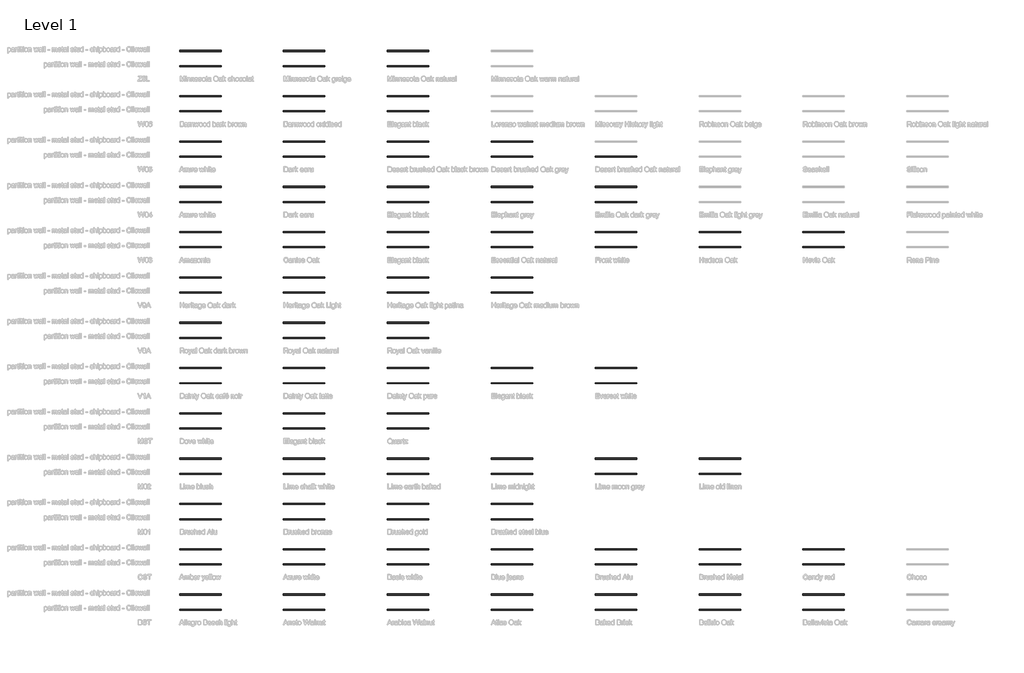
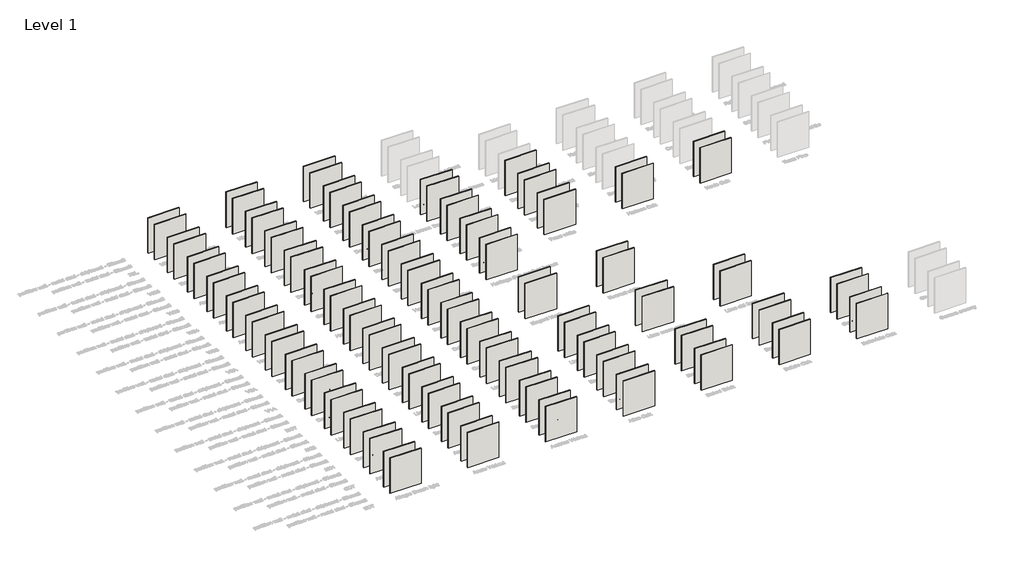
# One storey, part 1 of 110: 123 walls.
"""IFC4 building model written with IfcOpenShell, lengths in millimetres."""

from ifc_helpers import new_model, si_unit, origin, origin_with_axes, place, context, project, spatial, polyline, outline, extrude, element, save

model = new_model("IFC4")

# Units and contexts
model_context = context("Model", 3, world=origin())
ifc_project = project(units=[si_unit("LENGTHUNIT", "METRE", prefix="MILLI")], contexts=[model_context])

# Site, building, storey
site = spatial("IfcSite", under=ifc_project)
building = spatial("IfcBuilding", under=site)
storey = spatial("IfcBuildingStorey", under=building, Name="Level 1", Elevation=0.0)

# Walls
placement = place(None, origin())
element("IfcWall", 1, ObjectType="BERSfr_22_WA_parois de séparation - goujons métalliques - Clicwall BST Allegro Beech light 2785x600x10 mm_Unilin", at=placement, inside=storey, context=model_context, shape_type="SweptSolid", body=[
    extrude(outline(polyline([(14020.8, 1179.2), (10668.0, 1179.2), (10668.0, 1259.2), (14020.8, 1259.2), (14020.8, 1179.2)])), origin_with_axes(), (0.0, 0.0, 1.0), 4000.0),
])
element("IfcWall", 2, ObjectType="BERSfr_22_WA_parois de séparation - goujons métalliques - panneau de particules - Clicwall BST Allegro Beech light 2785x600x10 mm_Unilin", at=placement, inside=storey, context=model_context, shape_type="SweptSolid", body=[
    extrude(outline(polyline([(14020.8, 2392.4), (10668.0, 2392.4), (10668.0, 2484.4), (14020.8, 2484.4), (14020.8, 2392.4)])), origin_with_axes(), (0.0, 0.0, 1.0), 4000.0),
])
element("IfcWall", 3, ObjectType="BERSfr_22_WA_parois de séparation - goujons métalliques - Clicwall BST Aneto Walnut 2785x600x10 mm_Unilin", at=placement, inside=storey, context=model_context, shape_type="SweptSolid", body=[
    extrude(outline(polyline([(22402.8, 1179.2), (19050.0, 1179.2), (19050.0, 1259.2), (22402.8, 1259.2), (22402.8, 1179.2)])), origin_with_axes(), (0.0, 0.0, 1.0), 4000.0),
])
element("IfcWall", 4, ObjectType="BERSfr_22_WA_parois de séparation - goujons métalliques - panneau de particules - Clicwall BST Aneto Walnut 2785x600x10 mm_Unilin", at=placement, inside=storey, context=model_context, shape_type="SweptSolid", body=[
    extrude(outline(polyline([(22402.8, 2392.4), (19050.0, 2392.4), (19050.0, 2484.4), (22402.8, 2484.4), (22402.8, 2392.4)])), origin_with_axes(), (0.0, 0.0, 1.0), 4000.0),
])
element("IfcWall", 5, ObjectType="BERSfr_22_WA_parois de séparation - goujons métalliques - Clicwall BST Arabica Walnut 2785x600x10 mm_Unilin", at=placement, inside=storey, context=model_context, shape_type="SweptSolid", body=[
    extrude(outline(polyline([(30784.8, 1179.2), (27432.0, 1179.2), (27432.0, 1259.2), (30784.8, 1259.2), (30784.8, 1179.2)])), origin_with_axes(), (0.0, 0.0, 1.0), 4000.0),
])
element("IfcWall", 6, ObjectType="BERSfr_22_WA_parois de séparation - goujons métalliques - panneau de particules - Clicwall BST Arabica Walnut 2785x600x10 mm_Unilin", at=placement, inside=storey, context=model_context, shape_type="SweptSolid", body=[
    extrude(outline(polyline([(30784.8, 2392.4), (27432.0, 2392.4), (27432.0, 2484.4), (30784.8, 2484.4), (30784.8, 2392.4)])), origin_with_axes(), (0.0, 0.0, 1.0), 4000.0),
])
element("IfcWall", 7, ObjectType="BERSfr_22_WA_parois de séparation - goujons métalliques - Clicwall BST Atlas Oak  2785x600x10 mm_Unilin", at=placement, inside=storey, context=model_context, shape_type="SweptSolid", body=[
    extrude(outline(polyline([(39166.8, 1179.2), (35814.0, 1179.2), (35814.0, 1259.2), (39166.8, 1259.2), (39166.8, 1179.2)])), origin_with_axes(), (0.0, 0.0, 1.0), 4000.0),
])
element("IfcWall", 8, ObjectType="BERSfr_22_WA_parois de séparation - goujons métalliques - panneau de particules - Clicwall BST Atlas Oak  2785x600x10 mm_Unilin", at=placement, inside=storey, context=model_context, shape_type="SweptSolid", body=[
    extrude(outline(polyline([(39166.8, 2392.4), (35814.0, 2392.4), (35814.0, 2484.4), (39166.8, 2484.4), (39166.8, 2392.4)])), origin_with_axes(), (0.0, 0.0, 1.0), 4000.0),
])
element("IfcWall", 9, ObjectType="BERSfr_22_WA_parois de séparation - goujons métalliques - Clicwall BST Baked Brick 2785x600x10 mm_Unilin", at=placement, inside=storey, context=model_context, shape_type="SweptSolid", body=[
    extrude(outline(polyline([(47548.8, 1179.2), (44196.0, 1179.2), (44196.0, 1259.2), (47548.8, 1259.2), (47548.8, 1179.2)])), origin_with_axes(), (0.0, 0.0, 1.0), 4000.0),
])
element("IfcWall", 10, ObjectType="BERSfr_22_WA_parois de séparation - goujons métalliques - panneau de particules - Clicwall BST Baked Brick 2785x600x10 mm_Unilin", at=placement, inside=storey, context=model_context, shape_type="SweptSolid", body=[
    extrude(outline(polyline([(47548.8, 2392.4), (44196.0, 2392.4), (44196.0, 2484.4), (47548.8, 2484.4), (47548.8, 2392.4)])), origin_with_axes(), (0.0, 0.0, 1.0), 4000.0),
])
element("IfcWall", 11, ObjectType="BERSfr_22_WA_parois de séparation - goujons métalliques - Clicwall BST Belisio Oak 2785x600x10 mm_Unilin", at=placement, inside=storey, context=model_context, shape_type="SweptSolid", body=[
    extrude(outline(polyline([(55930.8, 1179.2), (52578.0, 1179.2), (52578.0, 1259.2), (55930.8, 1259.2), (55930.8, 1179.2)])), origin_with_axes(), (0.0, 0.0, 1.0), 4000.0),
])
element("IfcWall", 12, ObjectType="BERSfr_22_WA_parois de séparation - goujons métalliques - panneau de particules - Clicwall BST Belisio Oak 2785x600x10 mm_Unilin", at=placement, inside=storey, context=model_context, shape_type="SweptSolid", body=[
    extrude(outline(polyline([(55930.8, 2392.4), (52578.0, 2392.4), (52578.0, 2484.4), (55930.8, 2484.4), (55930.8, 2392.4)])), origin_with_axes(), (0.0, 0.0, 1.0), 4000.0),
])
element("IfcWall", 13, ObjectType="BERSfr_22_WA_parois de séparation - goujons métalliques - Clicwall BST Bellavista Oak 2785x600x10 mm_Unilin", at=placement, inside=storey, context=model_context, shape_type="SweptSolid", body=[
    extrude(outline(polyline([(64312.8, 1179.2), (60960.0, 1179.2), (60960.0, 1259.2), (64312.8, 1259.2), (64312.8, 1179.2)])), origin_with_axes(), (0.0, 0.0, 1.0), 4000.0),
])
element("IfcWall", 14, ObjectType="BERSfr_22_WA_parois de séparation - goujons métalliques - panneau de particules - Clicwall BST Bellavista Oak 2785x600x10 mm_Unilin", at=placement, inside=storey, context=model_context, shape_type="SweptSolid", body=[
    extrude(outline(polyline([(64312.8, 2392.4), (60960.0, 2392.4), (60960.0, 2484.4), (64312.8, 2484.4), (64312.8, 2392.4)])), origin_with_axes(), (0.0, 0.0, 1.0), 4000.0),
])
element("IfcWall", 15, ObjectType="BERSfr_22_WA_parois de séparation - goujons métalliques - Clicwall CST Amber yellow 2785x600x10 mm_Unilin", at=placement, inside=storey, context=model_context, shape_type="SweptSolid", body=[
    extrude(outline(polyline([(14020.8, 4836.8), (10668.0, 4836.8), (10668.0, 4916.8), (14020.8, 4916.8), (14020.8, 4836.8)])), origin_with_axes(), (0.0, 0.0, 1.0), 4000.0),
])
element("IfcWall", 16, ObjectType="BERSfr_22_WA_parois de séparation - goujons métalliques - panneau de particules - Clicwall CST Amber yellow 2785x600x10 mm_Unilin", at=placement, inside=storey, context=model_context, shape_type="SweptSolid", body=[
    extrude(outline(polyline([(14020.8, 6050.0), (10668.0, 6050.0), (10668.0, 6142.0), (14020.8, 6142.0), (14020.8, 6050.0)])), origin_with_axes(), (0.0, 0.0, 1.0), 4000.0),
])
element("IfcWall", 17, ObjectType="BERSfr_22_WA_parois de séparation - goujons métalliques - Clicwall CST Azure white 2785x600x10 mm_Unilin", at=placement, inside=storey, context=model_context, shape_type="SweptSolid", body=[
    extrude(outline(polyline([(22402.8, 4836.8), (19050.0, 4836.8), (19050.0, 4916.8), (22402.8, 4916.8), (22402.8, 4836.8)])), origin_with_axes(), (0.0, 0.0, 1.0), 4000.0),
])
element("IfcWall", 18, ObjectType="BERSfr_22_WA_parois de séparation - goujons métalliques - panneau de particules - Clicwall CST Azure white 2785x600x10 mm_Unilin", at=placement, inside=storey, context=model_context, shape_type="SweptSolid", body=[
    extrude(outline(polyline([(22402.8, 6050.0), (19050.0, 6050.0), (19050.0, 6142.0), (22402.8, 6142.0), (22402.8, 6050.0)])), origin_with_axes(), (0.0, 0.0, 1.0), 4000.0),
])
element("IfcWall", 19, ObjectType="BERSfr_22_WA_parois de séparation - goujons métalliques - Clicwall CST Basic white 2785x600x10 mm_Unilin", at=placement, inside=storey, context=model_context, shape_type="SweptSolid", body=[
    extrude(outline(polyline([(30784.8, 4836.8), (27432.0, 4836.8), (27432.0, 4916.8), (30784.8, 4916.8), (30784.8, 4836.8)])), origin_with_axes(), (0.0, 0.0, 1.0), 4000.0),
])
element("IfcWall", 20, ObjectType="BERSfr_22_WA_parois de séparation - goujons métalliques - panneau de particules - Clicwall CST Basic white 2785x600x10 mm_Unilin", at=placement, inside=storey, context=model_context, shape_type="SweptSolid", body=[
    extrude(outline(polyline([(30784.8, 6050.0), (27432.0, 6050.0), (27432.0, 6142.0), (30784.8, 6142.0), (30784.8, 6050.0)])), origin_with_axes(), (0.0, 0.0, 1.0), 4000.0),
])
element("IfcWall", 21, ObjectType="BERSfr_22_WA_parois de séparation - goujons métalliques - Clicwall CST Blue jeans 2785x600x10 mm_Unilin", at=placement, inside=storey, context=model_context, shape_type="SweptSolid", body=[
    extrude(outline(polyline([(39166.8, 4836.8), (35814.0, 4836.8), (35814.0, 4916.8), (39166.8, 4916.8), (39166.8, 4836.8)])), origin_with_axes(), (0.0, 0.0, 1.0), 4000.0),
])
element("IfcWall", 22, ObjectType="BERSfr_22_WA_parois de séparation - goujons métalliques - panneau de particules - Clicwall CST Blue jeans 2785x600x10 mm_Unilin", at=placement, inside=storey, context=model_context, shape_type="SweptSolid", body=[
    extrude(outline(polyline([(39166.8, 6050.0), (35814.0, 6050.0), (35814.0, 6142.0), (39166.8, 6142.0), (39166.8, 6050.0)])), origin_with_axes(), (0.0, 0.0, 1.0), 4000.0),
])
element("IfcWall", 23, ObjectType="BERSfr_22_WA_parois de séparation - goujons métalliques - Clicwall CST Brushed Alu 2785x600x10 mm_Unilin", at=placement, inside=storey, context=model_context, shape_type="SweptSolid", body=[
    extrude(outline(polyline([(47548.8, 4836.8), (44196.0, 4836.8), (44196.0, 4916.8), (47548.8, 4916.8), (47548.8, 4836.8)])), origin_with_axes(), (0.0, 0.0, 1.0), 4000.0),
])
element("IfcWall", 24, ObjectType="BERSfr_22_WA_parois de séparation - goujons métalliques - panneau de particules - Clicwall CST Brushed Alu 2785x600x10 mm_Unilin", at=placement, inside=storey, context=model_context, shape_type="SweptSolid", body=[
    extrude(outline(polyline([(47548.8, 6050.0), (44196.0, 6050.0), (44196.0, 6142.0), (47548.8, 6142.0), (47548.8, 6050.0)])), origin_with_axes(), (0.0, 0.0, 1.0), 4000.0),
])
element("IfcWall", 25, ObjectType="BERSfr_22_WA_parois de séparation - goujons métalliques - Clicwall CST Brushed Metal 2785x600x10 mm_Unilin", at=placement, inside=storey, context=model_context, shape_type="SweptSolid", body=[
    extrude(outline(polyline([(55930.8, 4836.8), (52578.0, 4836.8), (52578.0, 4916.8), (55930.8, 4916.8), (55930.8, 4836.8)])), origin_with_axes(), (0.0, 0.0, 1.0), 4000.0),
])
element("IfcWall", 26, ObjectType="BERSfr_22_WA_parois de séparation - goujons métalliques - panneau de particules - Clicwall CST Brushed Metal 2785x600x10 mm_Unilin", at=placement, inside=storey, context=model_context, shape_type="SweptSolid", body=[
    extrude(outline(polyline([(55930.8, 6050.0), (52578.0, 6050.0), (52578.0, 6142.0), (55930.8, 6142.0), (55930.8, 6050.0)])), origin_with_axes(), (0.0, 0.0, 1.0), 4000.0),
])
element("IfcWall", 27, ObjectType="BERSfr_22_WA_parois de séparation - goujons métalliques - Clicwall CST Candy red 2785x600x10 mm_Unilin", at=placement, inside=storey, context=model_context, shape_type="SweptSolid", body=[
    extrude(outline(polyline([(64312.8, 4836.8), (60960.0, 4836.8), (60960.0, 4916.8), (64312.8, 4916.8), (64312.8, 4836.8)])), origin_with_axes(), (0.0, 0.0, 1.0), 4000.0),
])
element("IfcWall", 28, ObjectType="BERSfr_22_WA_parois de séparation - goujons métalliques - panneau de particules - Clicwall CST Candy red 2785x600x10 mm_Unilin", at=placement, inside=storey, context=model_context, shape_type="SweptSolid", body=[
    extrude(outline(polyline([(64312.8, 6050.0), (60960.0, 6050.0), (60960.0, 6142.0), (64312.8, 6142.0), (64312.8, 6050.0)])), origin_with_axes(), (0.0, 0.0, 1.0), 4000.0),
])
element("IfcWall", 29, ObjectType="BERSfr_22_WA_parois de séparation - goujons métalliques - Clicwall M01 Brushed Alu 2785x600x10 mm_Unilin", at=placement, inside=storey, context=model_context, shape_type="SweptSolid", body=[
    extrude(outline(polyline([(14020.8, 8494.4), (10668.0, 8494.4), (10668.0, 8574.4), (14020.8, 8574.4), (14020.8, 8494.4)])), origin_with_axes(), (0.0, 0.0, 1.0), 4000.0),
])
element("IfcWall", 30, ObjectType="BERSfr_22_WA_parois de séparation - goujons métalliques - panneau de particules - Clicwall M01 Brushed Alu 2785x600x10 mm_Unilin", at=placement, inside=storey, context=model_context, shape_type="SweptSolid", body=[
    extrude(outline(polyline([(14020.8, 9707.6), (10668.0, 9707.6), (10668.0, 9799.6), (14020.8, 9799.6), (14020.8, 9707.6)])), origin_with_axes(), (0.0, 0.0, 1.0), 4000.0),
])
element("IfcWall", 31, ObjectType="BERSfr_22_WA_parois de séparation - goujons métalliques - Clicwall M01 Brushed bronze 2785x600x10 mm_Unilin", at=placement, inside=storey, context=model_context, shape_type="SweptSolid", body=[
    extrude(outline(polyline([(22402.8, 8494.4), (19050.0, 8494.4), (19050.0, 8574.4), (22402.8, 8574.4), (22402.8, 8494.4)])), origin_with_axes(), (0.0, 0.0, 1.0), 4000.0),
])
element("IfcWall", 32, ObjectType="BERSfr_22_WA_parois de séparation - goujons métalliques - panneau de particules - Clicwall M01 Brushed bronze 2785x600x10 mm_Unilin", at=placement, inside=storey, context=model_context, shape_type="SweptSolid", body=[
    extrude(outline(polyline([(22402.8, 9707.6), (19050.0, 9707.6), (19050.0, 9799.6), (22402.8, 9799.6), (22402.8, 9707.6)])), origin_with_axes(), (0.0, 0.0, 1.0), 4000.0),
])
element("IfcWall", 33, ObjectType="BERSfr_22_WA_parois de séparation - goujons métalliques - Clicwall M01 Brushed gold 2785x600x10 mm_Unilin", at=placement, inside=storey, context=model_context, shape_type="SweptSolid", body=[
    extrude(outline(polyline([(30784.8, 8494.4), (27432.0, 8494.4), (27432.0, 8574.4), (30784.8, 8574.4), (30784.8, 8494.4)])), origin_with_axes(), (0.0, 0.0, 1.0), 4000.0),
])
element("IfcWall", 34, ObjectType="BERSfr_22_WA_parois de séparation - goujons métalliques - panneau de particules - Clicwall M01 Brushed gold 2785x600x10 mm_Unilin", at=placement, inside=storey, context=model_context, shape_type="SweptSolid", body=[
    extrude(outline(polyline([(30784.8, 9707.6), (27432.0, 9707.6), (27432.0, 9799.6), (30784.8, 9799.6), (30784.8, 9707.6)])), origin_with_axes(), (0.0, 0.0, 1.0), 4000.0),
])
element("IfcWall", 35, ObjectType="BERSfr_22_WA_parois de séparation - goujons métalliques - Clicwall M01 Brushed steel blue  2785x600x10 mm_Unilin", at=placement, inside=storey, context=model_context, shape_type="SweptSolid", body=[
    extrude(outline(polyline([(39166.8, 8494.4), (35814.0, 8494.4), (35814.0, 8574.4), (39166.8, 8574.4), (39166.8, 8494.4)])), origin_with_axes(), (0.0, 0.0, 1.0), 4000.0),
])
element("IfcWall", 36, ObjectType="BERSfr_22_WA_parois de séparation - goujons métalliques - panneau de particules - Clicwall M01 Brushed steel blue  2785x600x10 mm_Unilin", at=placement, inside=storey, context=model_context, shape_type="SweptSolid", body=[
    extrude(outline(polyline([(39166.8, 9707.6), (35814.0, 9707.6), (35814.0, 9799.6), (39166.8, 9799.6), (39166.8, 9707.6)])), origin_with_axes(), (0.0, 0.0, 1.0), 4000.0),
])
element("IfcWall", 37, ObjectType="BERSfr_22_WA_parois de séparation - goujons métalliques - Clicwall M02 Lime blush  2785x600x10 mm_Unilin", at=placement, inside=storey, context=model_context, shape_type="SweptSolid", body=[
    extrude(outline(polyline([(14020.8, 12152.0), (10668.0, 12152.0), (10668.0, 12232.0), (14020.8, 12232.0), (14020.8, 12152.0)])), origin_with_axes(), (0.0, 0.0, 1.0), 4000.0),
])
element("IfcWall", 38, ObjectType="BERSfr_22_WA_parois de séparation - goujons métalliques - panneau de particules - Clicwall M02 Lime blush  2785x600x10 mm_Unilin", at=placement, inside=storey, context=model_context, shape_type="SweptSolid", body=[
    extrude(outline(polyline([(14020.8, 13365.2), (10668.0, 13365.2), (10668.0, 13457.2), (14020.8, 13457.2), (14020.8, 13365.2)])), origin_with_axes(), (0.0, 0.0, 1.0), 4000.0),
])
element("IfcWall", 39, ObjectType="BERSfr_22_WA_parois de séparation - goujons métalliques - Clicwall M02 Lime chalk white  2785x600x10 mm_Unilin", at=placement, inside=storey, context=model_context, shape_type="SweptSolid", body=[
    extrude(outline(polyline([(22402.8, 12152.0), (19050.0, 12152.0), (19050.0, 12232.0), (22402.8, 12232.0), (22402.8, 12152.0)])), origin_with_axes(), (0.0, 0.0, 1.0), 4000.0),
])
element("IfcWall", 40, ObjectType="BERSfr_22_WA_parois de séparation - goujons métalliques - panneau de particules - Clicwall M02 Lime chalk white  2785x600x10 mm_Unilin", at=placement, inside=storey, context=model_context, shape_type="SweptSolid", body=[
    extrude(outline(polyline([(22402.8, 13365.2), (19050.0, 13365.2), (19050.0, 13457.2), (22402.8, 13457.2), (22402.8, 13365.2)])), origin_with_axes(), (0.0, 0.0, 1.0), 4000.0),
])
element("IfcWall", 41, ObjectType="BERSfr_22_WA_parois de séparation - goujons métalliques - Clicwall M02 Lime earth baked  2785x600x10 mm_Unilin", at=placement, inside=storey, context=model_context, shape_type="SweptSolid", body=[
    extrude(outline(polyline([(30784.8, 12152.0), (27432.0, 12152.0), (27432.0, 12232.0), (30784.8, 12232.0), (30784.8, 12152.0)])), origin_with_axes(), (0.0, 0.0, 1.0), 4000.0),
])
element("IfcWall", 42, ObjectType="BERSfr_22_WA_parois de séparation - goujons métalliques - panneau de particules - Clicwall M02 Lime earth baked  2785x600x10 mm_Unilin", at=placement, inside=storey, context=model_context, shape_type="SweptSolid", body=[
    extrude(outline(polyline([(30784.8, 13365.2), (27432.0, 13365.2), (27432.0, 13457.2), (30784.8, 13457.2), (30784.8, 13365.2)])), origin_with_axes(), (0.0, 0.0, 1.0), 4000.0),
])
element("IfcWall", 43, ObjectType="BERSfr_22_WA_parois de séparation - goujons métalliques - Clicwall M02 Lime midnight  2785x600x10 mm_Unilin", at=placement, inside=storey, context=model_context, shape_type="SweptSolid", body=[
    extrude(outline(polyline([(39166.8, 12152.0), (35814.0, 12152.0), (35814.0, 12232.0), (39166.8, 12232.0), (39166.8, 12152.0)])), origin_with_axes(), (0.0, 0.0, 1.0), 4000.0),
])
element("IfcWall", 44, ObjectType="BERSfr_22_WA_parois de séparation - goujons métalliques - panneau de particules - Clicwall M02 Lime midnight  2785x600x10 mm_Unilin", at=placement, inside=storey, context=model_context, shape_type="SweptSolid", body=[
    extrude(outline(polyline([(39166.8, 13365.2), (35814.0, 13365.2), (35814.0, 13457.2), (39166.8, 13457.2), (39166.8, 13365.2)])), origin_with_axes(), (0.0, 0.0, 1.0), 4000.0),
])
element("IfcWall", 45, ObjectType="BERSfr_22_WA_parois de séparation - goujons métalliques - Clicwall M02 Lime moon grey  2785x600x10 mm_Unilin", at=placement, inside=storey, context=model_context, shape_type="SweptSolid", body=[
    extrude(outline(polyline([(47548.8, 12152.0), (44196.0, 12152.0), (44196.0, 12232.0), (47548.8, 12232.0), (47548.8, 12152.0)])), origin_with_axes(), (0.0, 0.0, 1.0), 4000.0),
])
element("IfcWall", 46, ObjectType="BERSfr_22_WA_parois de séparation - goujons métalliques - panneau de particules - Clicwall M02 Lime moon grey  2785x600x10 mm_Unilin", at=placement, inside=storey, context=model_context, shape_type="SweptSolid", body=[
    extrude(outline(polyline([(47548.8, 13365.2), (44196.0, 13365.2), (44196.0, 13457.2), (47548.8, 13457.2), (47548.8, 13365.2)])), origin_with_axes(), (0.0, 0.0, 1.0), 4000.0),
])
element("IfcWall", 47, ObjectType="BERSfr_22_WA_parois de séparation - goujons métalliques - Clicwall M02 Lime old linen  2785x600x10 mm_Unilin", at=placement, inside=storey, context=model_context, shape_type="SweptSolid", body=[
    extrude(outline(polyline([(55930.8, 12152.0), (52578.0, 12152.0), (52578.0, 12232.0), (55930.8, 12232.0), (55930.8, 12152.0)])), origin_with_axes(), (0.0, 0.0, 1.0), 4000.0),
])
element("IfcWall", 48, ObjectType="BERSfr_22_WA_parois de séparation - goujons métalliques - panneau de particules - Clicwall M02 Lime old linen  2785x600x10 mm_Unilin", at=placement, inside=storey, context=model_context, shape_type="SweptSolid", body=[
    extrude(outline(polyline([(55930.8, 13365.2), (52578.0, 13365.2), (52578.0, 13457.2), (55930.8, 13457.2), (55930.8, 13365.2)])), origin_with_axes(), (0.0, 0.0, 1.0), 4000.0),
])
element("IfcWall", 49, ObjectType="BERSfr_22_WA_parois de séparation - goujons métalliques - Clicwall MST Dove white  2785x600x10 mm_Unilin", at=placement, inside=storey, context=model_context, shape_type="SweptSolid", body=[
    extrude(outline(polyline([(14020.8, 15809.6), (10668.0, 15809.6), (10668.0, 15889.6), (14020.8, 15889.6), (14020.8, 15809.6)])), origin_with_axes(), (0.0, 0.0, 1.0), 4000.0),
])
element("IfcWall", 50, ObjectType="BERSfr_22_WA_parois de séparation - goujons métalliques - panneau de particules - Clicwall MST Dove white  2785x600x10 mm_Unilin", at=placement, inside=storey, context=model_context, shape_type="SweptSolid", body=[
    extrude(outline(polyline([(14020.8, 17022.8), (10668.0, 17022.8), (10668.0, 17114.8), (14020.8, 17114.8), (14020.8, 17022.8)])), origin_with_axes(), (0.0, 0.0, 1.0), 4000.0),
])
element("IfcWall", 51, ObjectType="BERSfr_22_WA_parois de séparation - goujons métalliques - Clicwall MST Elegant black  2785x600x10 mm_Unilin", at=placement, inside=storey, context=model_context, shape_type="SweptSolid", body=[
    extrude(outline(polyline([(22402.8, 15809.6), (19050.0, 15809.6), (19050.0, 15889.6), (22402.8, 15889.6), (22402.8, 15809.6)])), origin_with_axes(), (0.0, 0.0, 1.0), 4000.0),
])
element("IfcWall", 52, ObjectType="BERSfr_22_WA_parois de séparation - goujons métalliques - panneau de particules - Clicwall MST Elegant black  2785x600x10 mm_Unilin", at=placement, inside=storey, context=model_context, shape_type="SweptSolid", body=[
    extrude(outline(polyline([(22402.8, 17022.8), (19050.0, 17022.8), (19050.0, 17114.8), (22402.8, 17114.8), (22402.8, 17022.8)])), origin_with_axes(), (0.0, 0.0, 1.0), 4000.0),
])
element("IfcWall", 53, ObjectType="BERSfr_22_WA_parois de séparation - goujons métalliques - Clicwall MST Quartz  2785x600x10 mm_Unilin", at=placement, inside=storey, context=model_context, shape_type="SweptSolid", body=[
    extrude(outline(polyline([(30784.8, 15809.6), (27432.0, 15809.6), (27432.0, 15889.6), (30784.8, 15889.6), (30784.8, 15809.6)])), origin_with_axes(), (0.0, 0.0, 1.0), 4000.0),
])
element("IfcWall", 54, ObjectType="BERSfr_22_WA_parois de séparation - goujons métalliques - panneau de particules - Clicwall MST Quartz  2785x600x10 mm_Unilin", at=placement, inside=storey, context=model_context, shape_type="SweptSolid", body=[
    extrude(outline(polyline([(30784.8, 17022.8), (27432.0, 17022.8), (27432.0, 17114.8), (30784.8, 17114.8), (30784.8, 17022.8)])), origin_with_axes(), (0.0, 0.0, 1.0), 4000.0),
])
element("IfcWall", 55, ObjectType="BERSfr_22_WA_parois de séparation - goujons métalliques - Clicwall V1A Dainty Oak café noir 2785x600x10 mm_Unilin", at=placement, inside=storey, context=model_context, shape_type="SweptSolid", body=[
    extrude(outline(polyline([(14020.8, 19467.2), (10668.0, 19467.2), (10668.0, 19547.2), (14020.8, 19547.2), (14020.8, 19467.2)])), origin_with_axes(), (0.0, 0.0, 1.0), 4000.0),
])
element("IfcWall", 56, ObjectType="BERSfr_22_WA_parois de séparation - goujons métalliques - panneau de particules - Clicwall V1A Dainty Oak café noir 2785x600x10 mm_Unilin", at=placement, inside=storey, context=model_context, shape_type="SweptSolid", body=[
    extrude(outline(polyline([(14020.8, 20680.4), (10668.0, 20680.4), (10668.0, 20772.4), (14020.8, 20772.4), (14020.8, 20680.4)])), origin_with_axes(), (0.0, 0.0, 1.0), 4000.0),
])
element("IfcWall", 57, ObjectType="BERSfr_22_WA_parois de séparation - goujons métalliques - Clicwall V1A Dainty Oak latte 2785x600x10 mm_Unilin", at=placement, inside=storey, context=model_context, shape_type="SweptSolid", body=[
    extrude(outline(polyline([(22402.8, 19467.2), (19050.0, 19467.2), (19050.0, 19547.2), (22402.8, 19547.2), (22402.8, 19467.2)])), origin_with_axes(), (0.0, 0.0, 1.0), 4000.0),
])
element("IfcWall", 58, ObjectType="BERSfr_22_WA_parois de séparation - goujons métalliques - panneau de particules - Clicwall V1A Dainty Oak latte 2785x600x10 mm_Unilin", at=placement, inside=storey, context=model_context, shape_type="SweptSolid", body=[
    extrude(outline(polyline([(22402.8, 20680.4), (19050.0, 20680.4), (19050.0, 20772.4), (22402.8, 20772.4), (22402.8, 20680.4)])), origin_with_axes(), (0.0, 0.0, 1.0), 4000.0),
])
element("IfcWall", 59, ObjectType="BERSfr_22_WA_parois de séparation - goujons métalliques - Clicwall V1A Dainty Oak pure 2785x600x10 mm_Unilin", at=placement, inside=storey, context=model_context, shape_type="SweptSolid", body=[
    extrude(outline(polyline([(30784.8, 19467.2), (27432.0, 19467.2), (27432.0, 19547.2), (30784.8, 19547.2), (30784.8, 19467.2)])), origin_with_axes(), (0.0, 0.0, 1.0), 4000.0),
])
element("IfcWall", 60, ObjectType="BERSfr_22_WA_parois de séparation - goujons métalliques - panneau de particules - Clicwall V1A Dainty Oak pure 2785x600x10 mm_Unilin", at=placement, inside=storey, context=model_context, shape_type="SweptSolid", body=[
    extrude(outline(polyline([(30784.8, 20680.4), (27432.0, 20680.4), (27432.0, 20772.4), (30784.8, 20772.4), (30784.8, 20680.4)])), origin_with_axes(), (0.0, 0.0, 1.0), 4000.0),
])
element("IfcWall", 61, ObjectType="BERSfr_22_WA_parois de séparation - goujons métalliques - Clicwall V1A Elegant black  2785x600x10 mm_Unilin", at=placement, inside=storey, context=model_context, shape_type="SweptSolid", body=[
    extrude(outline(polyline([(39166.8, 19467.2), (35814.0, 19467.2), (35814.0, 19547.2), (39166.8, 19547.2), (39166.8, 19467.2)])), origin_with_axes(), (0.0, 0.0, 1.0), 4000.0),
])
element("IfcWall", 62, ObjectType="BERSfr_22_WA_parois de séparation - goujons métalliques - panneau de particules - Clicwall V1A Elegant black  2785x600x10 mm_Unilin", at=placement, inside=storey, context=model_context, shape_type="SweptSolid", body=[
    extrude(outline(polyline([(39166.8, 20680.4), (35814.0, 20680.4), (35814.0, 20772.4), (39166.8, 20772.4), (39166.8, 20680.4)])), origin_with_axes(), (0.0, 0.0, 1.0), 4000.0),
])
element("IfcWall", 63, ObjectType="BERSfr_22_WA_parois de séparation - goujons métalliques - Clicwall V1A Everest white  2785x600x10 mm_Unilin", at=placement, inside=storey, context=model_context, shape_type="SweptSolid", body=[
    extrude(outline(polyline([(47548.8, 19467.2), (44196.0, 19467.2), (44196.0, 19547.2), (47548.8, 19547.2), (47548.8, 19467.2)])), origin_with_axes(), (0.0, 0.0, 1.0), 4000.0),
])
element("IfcWall", 64, ObjectType="BERSfr_22_WA_parois de séparation - goujons métalliques - panneau de particules - Clicwall V1A Everest white  2785x600x10 mm_Unilin", at=placement, inside=storey, context=model_context, shape_type="SweptSolid", body=[
    extrude(outline(polyline([(47548.8, 20680.4), (44196.0, 20680.4), (44196.0, 20772.4), (47548.8, 20772.4), (47548.8, 20680.4)])), origin_with_axes(), (0.0, 0.0, 1.0), 4000.0),
])
element("IfcWall", 65, ObjectType="BERSfr_22_WA_parois de séparation - goujons métalliques - Clicwall V8A Royal Oak dark brown 2785x600x10 mm_Unilin", at=placement, inside=storey, context=model_context, shape_type="SweptSolid", body=[
    extrude(outline(polyline([(14020.8, 23124.8), (10668.0, 23124.8), (10668.0, 23204.8), (14020.8, 23204.8), (14020.8, 23124.8)])), origin_with_axes(), (0.0, 0.0, 1.0), 4000.0),
])
element("IfcWall", 66, ObjectType="BERSfr_22_WA_parois de séparation - goujons métalliques - panneau de particules - Clicwall V8A Royal Oak dark brown 2785x600x10 mm_Unilin", at=placement, inside=storey, context=model_context, shape_type="SweptSolid", body=[
    extrude(outline(polyline([(14020.8, 24338.0), (10668.0, 24338.0), (10668.0, 24430.0), (14020.8, 24430.0), (14020.8, 24338.0)])), origin_with_axes(), (0.0, 0.0, 1.0), 4000.0),
])
element("IfcWall", 67, ObjectType="BERSfr_22_WA_parois de séparation - goujons métalliques - Clicwall V8A Royal Oak natural 2785x600x10 mm_Unilin", at=placement, inside=storey, context=model_context, shape_type="SweptSolid", body=[
    extrude(outline(polyline([(22402.8, 23124.8), (19050.0, 23124.8), (19050.0, 23204.8), (22402.8, 23204.8), (22402.8, 23124.8)])), origin_with_axes(), (0.0, 0.0, 1.0), 4000.0),
])
element("IfcWall", 68, ObjectType="BERSfr_22_WA_parois de séparation - goujons métalliques - panneau de particules - Clicwall V8A Royal Oak natural 2785x600x10 mm_Unilin", at=placement, inside=storey, context=model_context, shape_type="SweptSolid", body=[
    extrude(outline(polyline([(22402.8, 24338.0), (19050.0, 24338.0), (19050.0, 24430.0), (22402.8, 24430.0), (22402.8, 24338.0)])), origin_with_axes(), (0.0, 0.0, 1.0), 4000.0),
])
element("IfcWall", 69, ObjectType="BERSfr_22_WA_parois de séparation - goujons métalliques - Clicwall V8A Royal Oak vanille 2785x600x10 mm_Unilin", at=placement, inside=storey, context=model_context, shape_type="SweptSolid", body=[
    extrude(outline(polyline([(30784.8, 23124.8), (27432.0, 23124.8), (27432.0, 23204.8), (30784.8, 23204.8), (30784.8, 23124.8)])), origin_with_axes(), (0.0, 0.0, 1.0), 4000.0),
])
element("IfcWall", 70, ObjectType="BERSfr_22_WA_parois de séparation - goujons métalliques - panneau de particules - Clicwall V8A Royal Oak vanille 2785x600x10 mm_Unilin", at=placement, inside=storey, context=model_context, shape_type="SweptSolid", body=[
    extrude(outline(polyline([(30784.8, 24338.0), (27432.0, 24338.0), (27432.0, 24430.0), (30784.8, 24430.0), (30784.8, 24338.0)])), origin_with_axes(), (0.0, 0.0, 1.0), 4000.0),
])
element("IfcWall", 71, ObjectType="BERSfr_22_WA_parois de séparation - goujons métalliques - Clicwall V9A Heritage Oak dark 2785x600x10 mm_Unilin", at=placement, inside=storey, context=model_context, shape_type="SweptSolid", body=[
    extrude(outline(polyline([(14020.8, 26782.4), (10668.0, 26782.4), (10668.0, 26862.4), (14020.8, 26862.4), (14020.8, 26782.4)])), origin_with_axes(), (0.0, 0.0, 1.0), 4000.0),
])
element("IfcWall", 72, ObjectType="BERSfr_22_WA_parois de séparation - goujons métalliques - panneau de particules - Clicwall V9A Heritage Oak dark 2785x600x10 mm_Unilin", at=placement, inside=storey, context=model_context, shape_type="SweptSolid", body=[
    extrude(outline(polyline([(14020.8, 27995.6), (10668.0, 27995.6), (10668.0, 28087.6), (14020.8, 28087.6), (14020.8, 27995.6)])), origin_with_axes(), (0.0, 0.0, 1.0), 4000.0),
])
element("IfcWall", 73, ObjectType="BERSfr_22_WA_parois de séparation - goujons métalliques - Clicwall V9A Heritage Oak Light 2785x600x10 mm_Unilin", at=placement, inside=storey, context=model_context, shape_type="SweptSolid", body=[
    extrude(outline(polyline([(22402.8, 26782.4), (19050.0, 26782.4), (19050.0, 26862.4), (22402.8, 26862.4), (22402.8, 26782.4)])), origin_with_axes(), (0.0, 0.0, 1.0), 4000.0),
])
element("IfcWall", 74, ObjectType="BERSfr_22_WA_parois de séparation - goujons métalliques - panneau de particules - Clicwall V9A Heritage Oak Light 2785x600x10 mm_Unilin", at=placement, inside=storey, context=model_context, shape_type="SweptSolid", body=[
    extrude(outline(polyline([(22402.8, 27995.6), (19050.0, 27995.6), (19050.0, 28087.6), (22402.8, 28087.6), (22402.8, 27995.6)])), origin_with_axes(), (0.0, 0.0, 1.0), 4000.0),
])
element("IfcWall", 75, ObjectType="BERSfr_22_WA_parois de séparation - goujons métalliques - Clicwall V9A Heritage Oak light patina 2785x600x10 mm_Unilin", at=placement, inside=storey, context=model_context, shape_type="SweptSolid", body=[
    extrude(outline(polyline([(30784.8, 26782.4), (27432.0, 26782.4), (27432.0, 26862.4), (30784.8, 26862.4), (30784.8, 26782.4)])), origin_with_axes(), (0.0, 0.0, 1.0), 4000.0),
])
element("IfcWall", 76, ObjectType="BERSfr_22_WA_parois de séparation - goujons métalliques - panneau de particules - Clicwall V9A Heritage Oak light patina 2785x600x10 mm_Unilin", at=placement, inside=storey, context=model_context, shape_type="SweptSolid", body=[
    extrude(outline(polyline([(30784.8, 27995.6), (27432.0, 27995.6), (27432.0, 28087.6), (30784.8, 28087.6), (30784.8, 27995.6)])), origin_with_axes(), (0.0, 0.0, 1.0), 4000.0),
])
element("IfcWall", 77, ObjectType="BERSfr_22_WA_parois de séparation - goujons métalliques - Clicwall V9A Heritage Oak medium brown 2785x600x10 mm_Unilin", at=placement, inside=storey, context=model_context, shape_type="SweptSolid", body=[
    extrude(outline(polyline([(39166.8, 26782.4), (35814.0, 26782.4), (35814.0, 26862.4), (39166.8, 26862.4), (39166.8, 26782.4)])), origin_with_axes(), (0.0, 0.0, 1.0), 4000.0),
])
element("IfcWall", 78, ObjectType="BERSfr_22_WA_parois de séparation - goujons métalliques - panneau de particules - Clicwall V9A Heritage Oak medium brown 2785x600x10 mm_Unilin", at=placement, inside=storey, context=model_context, shape_type="SweptSolid", body=[
    extrude(outline(polyline([(39166.8, 27995.6), (35814.0, 27995.6), (35814.0, 28087.6), (39166.8, 28087.6), (39166.8, 27995.6)])), origin_with_axes(), (0.0, 0.0, 1.0), 4000.0),
])
element("IfcWall", 79, ObjectType="BERSfr_22_WA_parois de séparation - goujons métalliques - Clicwall W03 Amazonia 2785x600x10 mm_Unilin", at=placement, inside=storey, context=model_context, shape_type="SweptSolid", body=[
    extrude(outline(polyline([(14020.8, 30440.0), (10668.0, 30440.0), (10668.0, 30520.0), (14020.8, 30520.0), (14020.8, 30440.0)])), origin_with_axes(), (0.0, 0.0, 1.0), 4000.0),
])
element("IfcWall", 80, ObjectType="BERSfr_22_WA_parois de séparation - goujons métalliques - panneau de particules - Clicwall W03 Amazonia 2785x600x10 mm_Unilin", at=placement, inside=storey, context=model_context, shape_type="SweptSolid", body=[
    extrude(outline(polyline([(14020.8, 31653.2), (10668.0, 31653.2), (10668.0, 31745.2), (14020.8, 31745.2), (14020.8, 31653.2)])), origin_with_axes(), (0.0, 0.0, 1.0), 4000.0),
])
element("IfcWall", 81, ObjectType="BERSfr_22_WA_parois de séparation - goujons métalliques - Clicwall W03 Canice Oak 2785x600x10 mm_Unilin", at=placement, inside=storey, context=model_context, shape_type="SweptSolid", body=[
    extrude(outline(polyline([(22402.8, 30440.0), (19050.0, 30440.0), (19050.0, 30520.0), (22402.8, 30520.0), (22402.8, 30440.0)])), origin_with_axes(), (0.0, 0.0, 1.0), 4000.0),
])
element("IfcWall", 82, ObjectType="BERSfr_22_WA_parois de séparation - goujons métalliques - panneau de particules - Clicwall W03 Canice Oak 2785x600x10 mm_Unilin", at=placement, inside=storey, context=model_context, shape_type="SweptSolid", body=[
    extrude(outline(polyline([(22402.8, 31653.2), (19050.0, 31653.2), (19050.0, 31745.2), (22402.8, 31745.2), (22402.8, 31653.2)])), origin_with_axes(), (0.0, 0.0, 1.0), 4000.0),
])
element("IfcWall", 83, ObjectType="BERSfr_22_WA_parois de séparation - goujons métalliques - Clicwall W03 Elegant black 2785x600x10 mm_Unilin", at=placement, inside=storey, context=model_context, shape_type="SweptSolid", body=[
    extrude(outline(polyline([(30784.8, 30440.0), (27432.0, 30440.0), (27432.0, 30520.0), (30784.8, 30520.0), (30784.8, 30440.0)])), origin_with_axes(), (0.0, 0.0, 1.0), 4000.0),
])
element("IfcWall", 84, ObjectType="BERSfr_22_WA_parois de séparation - goujons métalliques - panneau de particules - Clicwall W03 Elegant black 2785x600x10 mm_Unilin", at=placement, inside=storey, context=model_context, shape_type="SweptSolid", body=[
    extrude(outline(polyline([(30784.8, 31653.2), (27432.0, 31653.2), (27432.0, 31745.2), (30784.8, 31745.2), (30784.8, 31653.2)])), origin_with_axes(), (0.0, 0.0, 1.0), 4000.0),
])
element("IfcWall", 85, ObjectType="BERSfr_22_WA_parois de séparation - goujons métalliques - Clicwall W03 Essential Oak natural 2785x600x10 mm_Unilin", at=placement, inside=storey, context=model_context, shape_type="SweptSolid", body=[
    extrude(outline(polyline([(39166.8, 30440.0), (35814.0, 30440.0), (35814.0, 30520.0), (39166.8, 30520.0), (39166.8, 30440.0)])), origin_with_axes(), (0.0, 0.0, 1.0), 4000.0),
])
element("IfcWall", 86, ObjectType="BERSfr_22_WA_parois de séparation - goujons métalliques - panneau de particules - Clicwall W03 Essential Oak natural 2785x600x10 mm_Unilin", at=placement, inside=storey, context=model_context, shape_type="SweptSolid", body=[
    extrude(outline(polyline([(39166.8, 31653.2), (35814.0, 31653.2), (35814.0, 31745.2), (39166.8, 31745.2), (39166.8, 31653.2)])), origin_with_axes(), (0.0, 0.0, 1.0), 4000.0),
])
element("IfcWall", 87, ObjectType="BERSfr_22_WA_parois de séparation - goujons métalliques - Clicwall W03 Front white 2785x600x10 mm_Unilin", at=placement, inside=storey, context=model_context, shape_type="SweptSolid", body=[
    extrude(outline(polyline([(47548.8, 30440.0), (44196.0, 30440.0), (44196.0, 30520.0), (47548.8, 30520.0), (47548.8, 30440.0)])), origin_with_axes(), (0.0, 0.0, 1.0), 4000.0),
])
element("IfcWall", 88, ObjectType="BERSfr_22_WA_parois de séparation - goujons métalliques - panneau de particules - Clicwall W03 Front white 2785x600x10 mm_Unilin", at=placement, inside=storey, context=model_context, shape_type="SweptSolid", body=[
    extrude(outline(polyline([(47548.8, 31653.2), (44196.0, 31653.2), (44196.0, 31745.2), (47548.8, 31745.2), (47548.8, 31653.2)])), origin_with_axes(), (0.0, 0.0, 1.0), 4000.0),
])
element("IfcWall", 89, ObjectType="BERSfr_22_WA_parois de séparation - goujons métalliques - Clicwall W03 Hudson Oak 2785x600x10 mm_Unilin", at=placement, inside=storey, context=model_context, shape_type="SweptSolid", body=[
    extrude(outline(polyline([(55930.8, 30440.0), (52578.0, 30440.0), (52578.0, 30520.0), (55930.8, 30520.0), (55930.8, 30440.0)])), origin_with_axes(), (0.0, 0.0, 1.0), 4000.0),
])
element("IfcWall", 90, ObjectType="BERSfr_22_WA_parois de séparation - goujons métalliques - panneau de particules - Clicwall W03 Hudson Oak 2785x600x10 mm_Unilin", at=placement, inside=storey, context=model_context, shape_type="SweptSolid", body=[
    extrude(outline(polyline([(55930.8, 31653.2), (52578.0, 31653.2), (52578.0, 31745.2), (55930.8, 31745.2), (55930.8, 31653.2)])), origin_with_axes(), (0.0, 0.0, 1.0), 4000.0),
])
element("IfcWall", 91, ObjectType="BERSfr_22_WA_parois de séparation - goujons métalliques - Clicwall W03 Nevis Oak 2785x600x10 mm_Unilin", at=placement, inside=storey, context=model_context, shape_type="SweptSolid", body=[
    extrude(outline(polyline([(64312.8, 30440.0), (60960.0, 30440.0), (60960.0, 30520.0), (64312.8, 30520.0), (64312.8, 30440.0)])), origin_with_axes(), (0.0, 0.0, 1.0), 4000.0),
])
element("IfcWall", 92, ObjectType="BERSfr_22_WA_parois de séparation - goujons métalliques - panneau de particules - Clicwall W03 Nevis Oak 2785x600x10 mm_Unilin", at=placement, inside=storey, context=model_context, shape_type="SweptSolid", body=[
    extrude(outline(polyline([(64312.8, 31653.2), (60960.0, 31653.2), (60960.0, 31745.2), (64312.8, 31745.2), (64312.8, 31653.2)])), origin_with_axes(), (0.0, 0.0, 1.0), 4000.0),
])
element("IfcWall", 93, ObjectType="BERSfr_22_WA_parois de séparation - goujons métalliques - Clicwall W04 Azure white 2785x600x10 mm_Unilin", at=placement, inside=storey, context=model_context, shape_type="SweptSolid", body=[
    extrude(outline(polyline([(14020.8, 34097.6), (10668.0, 34097.6), (10668.0, 34177.6), (14020.8, 34177.6), (14020.8, 34097.6)])), origin_with_axes(), (0.0, 0.0, 1.0), 4000.0),
])
element("IfcWall", 94, ObjectType="BERSfr_22_WA_parois de séparation - goujons métalliques - panneau de particules - Clicwall W04 Azure white 2785x600x10 mm_Unilin", at=placement, inside=storey, context=model_context, shape_type="SweptSolid", body=[
    extrude(outline(polyline([(14020.8, 35310.8), (10668.0, 35310.8), (10668.0, 35402.8), (14020.8, 35402.8), (14020.8, 35310.8)])), origin_with_axes(), (0.0, 0.0, 1.0), 4000.0),
])
element("IfcWall", 95, ObjectType="BERSfr_22_WA_parois de séparation - goujons métalliques - Clicwall W04 Dark ecru 2785x600x10 mm_Unilin", at=placement, inside=storey, context=model_context, shape_type="SweptSolid", body=[
    extrude(outline(polyline([(22402.8, 34097.6), (19050.0, 34097.6), (19050.0, 34177.6), (22402.8, 34177.6), (22402.8, 34097.6)])), origin_with_axes(), (0.0, 0.0, 1.0), 4000.0),
])
element("IfcWall", 96, ObjectType="BERSfr_22_WA_parois de séparation - goujons métalliques - panneau de particules - Clicwall W04 Dark ecru 2785x600x10 mm_Unilin", at=placement, inside=storey, context=model_context, shape_type="SweptSolid", body=[
    extrude(outline(polyline([(22402.8, 35310.8), (19050.0, 35310.8), (19050.0, 35402.8), (22402.8, 35402.8), (22402.8, 35310.8)])), origin_with_axes(), (0.0, 0.0, 1.0), 4000.0),
])
element("IfcWall", 97, ObjectType="BERSfr_22_WA_parois de séparation - goujons métalliques - Clicwall W04 Elegant black 2785x600x10 mm_Unilin", at=placement, inside=storey, context=model_context, shape_type="SweptSolid", body=[
    extrude(outline(polyline([(30784.8, 34097.6), (27432.0, 34097.6), (27432.0, 34177.6), (30784.8, 34177.6), (30784.8, 34097.6)])), origin_with_axes(), (0.0, 0.0, 1.0), 4000.0),
])
element("IfcWall", 98, ObjectType="BERSfr_22_WA_parois de séparation - goujons métalliques - panneau de particules - Clicwall W04 Elegant black 2785x600x10 mm_Unilin", at=placement, inside=storey, context=model_context, shape_type="SweptSolid", body=[
    extrude(outline(polyline([(30784.8, 35310.8), (27432.0, 35310.8), (27432.0, 35402.8), (30784.8, 35402.8), (30784.8, 35310.8)])), origin_with_axes(), (0.0, 0.0, 1.0), 4000.0),
])
element("IfcWall", 99, ObjectType="BERSfr_22_WA_parois de séparation - goujons métalliques - Clicwall W04 Elephant grey 2785x600x10 mm_Unilin", at=placement, inside=storey, context=model_context, shape_type="SweptSolid", body=[
    extrude(outline(polyline([(39166.8, 34097.6), (35814.0, 34097.6), (35814.0, 34177.6), (39166.8, 34177.6), (39166.8, 34097.6)])), origin_with_axes(), (0.0, 0.0, 1.0), 4000.0),
])
element("IfcWall", 100, ObjectType="BERSfr_22_WA_parois de séparation - goujons métalliques - panneau de particules - Clicwall W04 Elephant grey 2785x600x10 mm_Unilin", at=placement, inside=storey, context=model_context, shape_type="SweptSolid", body=[
    extrude(outline(polyline([(39166.8, 35310.8), (35814.0, 35310.8), (35814.0, 35402.8), (39166.8, 35402.8), (39166.8, 35310.8)])), origin_with_axes(), (0.0, 0.0, 1.0), 4000.0),
])
element("IfcWall", 101, ObjectType="BERSfr_22_WA_parois de séparation - goujons métalliques - Clicwall W04 Emilia Oak dark grey 2785x600x10 mm_Unilin", at=placement, inside=storey, context=model_context, shape_type="SweptSolid", body=[
    extrude(outline(polyline([(47548.8, 34097.6), (44196.0, 34097.6), (44196.0, 34177.6), (47548.8, 34177.6), (47548.8, 34097.6)])), origin_with_axes(), (0.0, 0.0, 1.0), 4000.0),
])
element("IfcWall", 102, ObjectType="BERSfr_22_WA_parois de séparation - goujons métalliques - panneau de particules - Clicwall W04 Emilia Oak dark grey 2785x600x10 mm_Unilin", at=placement, inside=storey, context=model_context, shape_type="SweptSolid", body=[
    extrude(outline(polyline([(47548.8, 35310.8), (44196.0, 35310.8), (44196.0, 35402.8), (47548.8, 35402.8), (47548.8, 35310.8)])), origin_with_axes(), (0.0, 0.0, 1.0), 4000.0),
])
element("IfcWall", 103, ObjectType="BERSfr_22_WA_parois de séparation - goujons métalliques - Clicwall W05 Azure white 2785x600x10 mm_Unilin", at=placement, inside=storey, context=model_context, shape_type="SweptSolid", body=[
    extrude(outline(polyline([(14020.8, 37755.2), (10668.0, 37755.2), (10668.0, 37835.2), (14020.8, 37835.2), (14020.8, 37755.2)])), origin_with_axes(), (0.0, 0.0, 1.0), 4000.0),
])
element("IfcWall", 104, ObjectType="BERSfr_22_WA_parois de séparation - goujons métalliques - panneau de particules - Clicwall W05 Azure white 2785x600x10 mm_Unilin", at=placement, inside=storey, context=model_context, shape_type="SweptSolid", body=[
    extrude(outline(polyline([(14020.8, 38968.4), (10668.0, 38968.4), (10668.0, 39060.4), (14020.8, 39060.4), (14020.8, 38968.4)])), origin_with_axes(), (0.0, 0.0, 1.0), 4000.0),
])
element("IfcWall", 105, ObjectType="BERSfr_22_WA_parois de séparation - goujons métalliques - Clicwall W05 Dark ecru 2785x600x10 mm_Unilin", at=placement, inside=storey, context=model_context, shape_type="SweptSolid", body=[
    extrude(outline(polyline([(22402.8, 37755.2), (19050.0, 37755.2), (19050.0, 37835.2), (22402.8, 37835.2), (22402.8, 37755.2)])), origin_with_axes(), (0.0, 0.0, 1.0), 4000.0),
])
element("IfcWall", 106, ObjectType="BERSfr_22_WA_parois de séparation - goujons métalliques - panneau de particules - Clicwall W05 Dark ecru 2785x600x10 mm_Unilin", at=placement, inside=storey, context=model_context, shape_type="SweptSolid", body=[
    extrude(outline(polyline([(22402.8, 38968.4), (19050.0, 38968.4), (19050.0, 39060.4), (22402.8, 39060.4), (22402.8, 38968.4)])), origin_with_axes(), (0.0, 0.0, 1.0), 4000.0),
])
element("IfcWall", 107, ObjectType="BERSfr_22_WA_parois de séparation - goujons métalliques - Clicwall W05 Desert brushed Oak black brown 2785x600x10 mm_Unilin", at=placement, inside=storey, context=model_context, shape_type="SweptSolid", body=[
    extrude(outline(polyline([(30784.8, 37755.2), (27432.0, 37755.2), (27432.0, 37835.2), (30784.8, 37835.2), (30784.8, 37755.2)])), origin_with_axes(), (0.0, 0.0, 1.0), 4000.0),
])
element("IfcWall", 108, ObjectType="BERSfr_22_WA_parois de séparation - goujons métalliques - panneau de particules - Clicwall W05 Desert brushed Oak black brown 2785x600x10 mm_Unilin", at=placement, inside=storey, context=model_context, shape_type="SweptSolid", body=[
    extrude(outline(polyline([(30784.8, 38968.4), (27432.0, 38968.4), (27432.0, 39060.4), (30784.8, 39060.4), (30784.8, 38968.4)])), origin_with_axes(), (0.0, 0.0, 1.0), 4000.0),
])
element("IfcWall", 109, ObjectType="BERSfr_22_WA_parois de séparation - goujons métalliques - Clicwall W05 Desert brushed Oak grey 2785x600x10 mm_Unilin", at=placement, inside=storey, context=model_context, shape_type="SweptSolid", body=[
    extrude(outline(polyline([(39166.8, 37755.2), (35814.0, 37755.2), (35814.0, 37835.2), (39166.8, 37835.2), (39166.8, 37755.2)])), origin_with_axes(), (0.0, 0.0, 1.0), 4000.0),
])
element("IfcWall", 110, ObjectType="BERSfr_22_WA_parois de séparation - goujons métalliques - panneau de particules - Clicwall W05 Desert brushed Oak grey 2785x600x10 mm_Unilin", at=placement, inside=storey, context=model_context, shape_type="SweptSolid", body=[
    extrude(outline(polyline([(39166.8, 38968.4), (35814.0, 38968.4), (35814.0, 39060.4), (39166.8, 39060.4), (39166.8, 38968.4)])), origin_with_axes(), (0.0, 0.0, 1.0), 4000.0),
])
element("IfcWall", 111, ObjectType="BERSfr_22_WA_parois de séparation - goujons métalliques - Clicwall W05 Desert brushed Oak natural 2785x600x10 mm_Unilin", at=placement, inside=storey, context=model_context, shape_type="SweptSolid", body=[
    extrude(outline(polyline([(47548.8, 37755.2), (44196.0, 37755.2), (44196.0, 37835.2), (47548.8, 37835.2), (47548.8, 37755.2)])), origin_with_axes(), (0.0, 0.0, 1.0), 4000.0),
])
element("IfcWall", 112, ObjectType="BERSfr_22_WA_parois de séparation - goujons métalliques - Clicwall W06 Barnwood bark brown 2785x600x10 mm_Unilin", at=placement, inside=storey, context=model_context, shape_type="SweptSolid", body=[
    extrude(outline(polyline([(14020.8, 41412.8), (10668.0, 41412.8), (10668.0, 41492.8), (14020.8, 41492.8), (14020.8, 41412.8)])), origin_with_axes(), (0.0, 0.0, 1.0), 4000.0),
])
element("IfcWall", 113, ObjectType="BERSfr_22_WA_parois de séparation - goujons métalliques - panneau de particules - Clicwall W06 Barnwood bark brown 2785x600x10 mm_Unilin", at=placement, inside=storey, context=model_context, shape_type="SweptSolid", body=[
    extrude(outline(polyline([(14020.8, 42626.0), (10668.0, 42626.0), (10668.0, 42718.0), (14020.8, 42718.0), (14020.8, 42626.0)])), origin_with_axes(), (0.0, 0.0, 1.0), 4000.0),
])
element("IfcWall", 114, ObjectType="BERSfr_22_WA_parois de séparation - goujons métalliques - Clicwall W06 Barnwood oxidised 2785x600x10 mm_Unilin", at=placement, inside=storey, context=model_context, shape_type="SweptSolid", body=[
    extrude(outline(polyline([(22402.8, 41412.8), (19050.0, 41412.8), (19050.0, 41492.8), (22402.8, 41492.8), (22402.8, 41412.8)])), origin_with_axes(), (0.0, 0.0, 1.0), 4000.0),
])
element("IfcWall", 115, ObjectType="BERSfr_22_WA_parois de séparation - goujons métalliques - panneau de particules - Clicwall W06 Barnwood oxidised 2785x600x10 mm_Unilin", at=placement, inside=storey, context=model_context, shape_type="SweptSolid", body=[
    extrude(outline(polyline([(22402.8, 42626.0), (19050.0, 42626.0), (19050.0, 42718.0), (22402.8, 42718.0), (22402.8, 42626.0)])), origin_with_axes(), (0.0, 0.0, 1.0), 4000.0),
])
element("IfcWall", 116, ObjectType="BERSfr_22_WA_parois de séparation - goujons métalliques - Clicwall W06 Elegant black 2785x600x10 mm_Unilin", at=placement, inside=storey, context=model_context, shape_type="SweptSolid", body=[
    extrude(outline(polyline([(30784.8, 41412.8), (27432.0, 41412.8), (27432.0, 41492.8), (30784.8, 41492.8), (30784.8, 41412.8)])), origin_with_axes(), (0.0, 0.0, 1.0), 4000.0),
])
element("IfcWall", 117, ObjectType="BERSfr_22_WA_parois de séparation - goujons métalliques - panneau de particules - Clicwall W06 Elegant black 2785x600x10 mm_Unilin", at=placement, inside=storey, context=model_context, shape_type="SweptSolid", body=[
    extrude(outline(polyline([(30784.8, 42626.0), (27432.0, 42626.0), (27432.0, 42718.0), (30784.8, 42718.0), (30784.8, 42626.0)])), origin_with_axes(), (0.0, 0.0, 1.0), 4000.0),
])
element("IfcWall", 118, ObjectType="BERSfr_22_WA_parois de séparation - goujons métalliques - Clicwall Z5L Minnesota Oak chocolat 2785x600x10 mm_Unilin", at=placement, inside=storey, context=model_context, shape_type="SweptSolid", body=[
    extrude(outline(polyline([(14020.8, 45070.4), (10668.0, 45070.4), (10668.0, 45150.4), (14020.8, 45150.4), (14020.8, 45070.4)])), origin_with_axes(), (0.0, 0.0, 1.0), 4000.0),
])
element("IfcWall", 119, ObjectType="BERSfr_22_WA_parois de séparation - goujons métalliques - panneau de particules - Clicwall Z5L Minnesota Oak chocolat 2785x600x10 mm_Unilin", at=placement, inside=storey, context=model_context, shape_type="SweptSolid", body=[
    extrude(outline(polyline([(14020.8, 46283.6), (10668.0, 46283.6), (10668.0, 46375.6), (14020.8, 46375.6), (14020.8, 46283.6)])), origin_with_axes(), (0.0, 0.0, 1.0), 4000.0),
])
element("IfcWall", 120, ObjectType="BERSfr_22_WA_parois de séparation - goujons métalliques - Clicwall Z5L Minnesota Oak greige 2785x600x10 mm_Unilin", at=placement, inside=storey, context=model_context, shape_type="SweptSolid", body=[
    extrude(outline(polyline([(22402.8, 45070.4), (19050.0, 45070.4), (19050.0, 45150.4), (22402.8, 45150.4), (22402.8, 45070.4)])), origin_with_axes(), (0.0, 0.0, 1.0), 4000.0),
])
element("IfcWall", 121, ObjectType="BERSfr_22_WA_parois de séparation - goujons métalliques - panneau de particules - Clicwall Z5L Minnesota Oak greige 2785x600x10 mm_Unilin", at=placement, inside=storey, context=model_context, shape_type="SweptSolid", body=[
    extrude(outline(polyline([(22402.8, 46283.6), (19050.0, 46283.6), (19050.0, 46375.6), (22402.8, 46375.6), (22402.8, 46283.6)])), origin_with_axes(), (0.0, 0.0, 1.0), 4000.0),
])
element("IfcWall", 122, ObjectType="BERSfr_22_WA_parois de séparation - goujons métalliques - Clicwall Z5L Minnesota Oak natural 2785x600x10 mm_Unilin", at=placement, inside=storey, context=model_context, shape_type="SweptSolid", body=[
    extrude(outline(polyline([(30784.8, 45070.4), (27432.0, 45070.4), (27432.0, 45150.4), (30784.8, 45150.4), (30784.8, 45070.4)])), origin_with_axes(), (0.0, 0.0, 1.0), 4000.0),
])
element("IfcWall", 123, ObjectType="BERSfr_22_WA_parois de séparation - goujons métalliques - panneau de particules - Clicwall Z5L Minnesota Oak natural 2785x600x10 mm_Unilin", at=placement, inside=storey, context=model_context, shape_type="SweptSolid", body=[
    extrude(outline(polyline([(30784.8, 46283.6), (27432.0, 46283.6), (27432.0, 46375.6), (30784.8, 46375.6), (30784.8, 46283.6)])), origin_with_axes(), (0.0, 0.0, 1.0), 4000.0),
])

save(model, "model.ifc")
